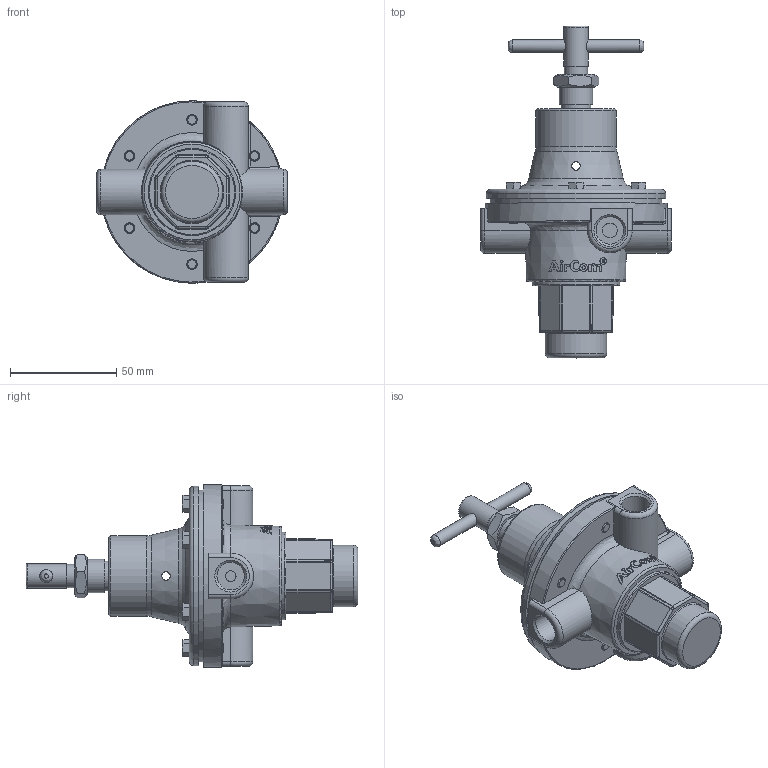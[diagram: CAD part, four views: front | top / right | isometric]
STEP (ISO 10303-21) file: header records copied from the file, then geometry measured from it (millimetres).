
FILE_DESCRIPTION((''),'2;1');
FILE_NAME('F:\AirCom-Produktdokumentation\Druckregler\RHB\CAD\CAD AirCom\3D\B-RHB-02A.stp','2008-10-14T12:10:38',('Frank Schroers'),(''),'Autodesk Inventor 2008','Autodesk Inventor 2008','');
FILE_SCHEMA(('AUTOMOTIVE_DESIGN { 1 0 10303 214 1 1 1 1 }'));
Length unit declared in the file: millimetre
Products named in the file (4): B-RHB-02E; AS 1427 - Metrisch M4 x 16; 28675 M12
Assembly tree (8 placements, depth 2):
  B-RHB-02E
    B-RHB-02E
    AS 1427 - Metrisch M4 x 16  x6
    28675 M12
Bounding box: 90.02 x 156.5 x 86 mm (x, y, z)
Volume: 243516.7 mm3; surface area: 41274.9 mm2
Topology: 8 solids, 8 shells, 425 faces, 944 edges, 573 vertices
Faces by surface type: plane 165, cone 103, cylinder 83, bspline 36, torus 22, sphere 16
Full cylindrical faces by diameter (mm): 1.315 x1, 3.06 x1, 4 x10, 5 x8, 5.25 x6, 6 x2, 7 x2, 11 x1, 11.5 x1, 13 x4, 14 x1, 15.7 x1, 29 x1, 38 x1, 41.15 x1, 81 x1, 84.5 x1, 86 x1
Entity records: 10652 total; most frequent: CARTESIAN_POINT 4249, DIRECTION 1299, ORIENTED_EDGE 1226, EDGE_CURVE 613, AXIS2_PLACEMENT_3D 554, EDGE_LOOP 410, VERTEX_POINT 409, FACE_OUTER_BOUND 300
